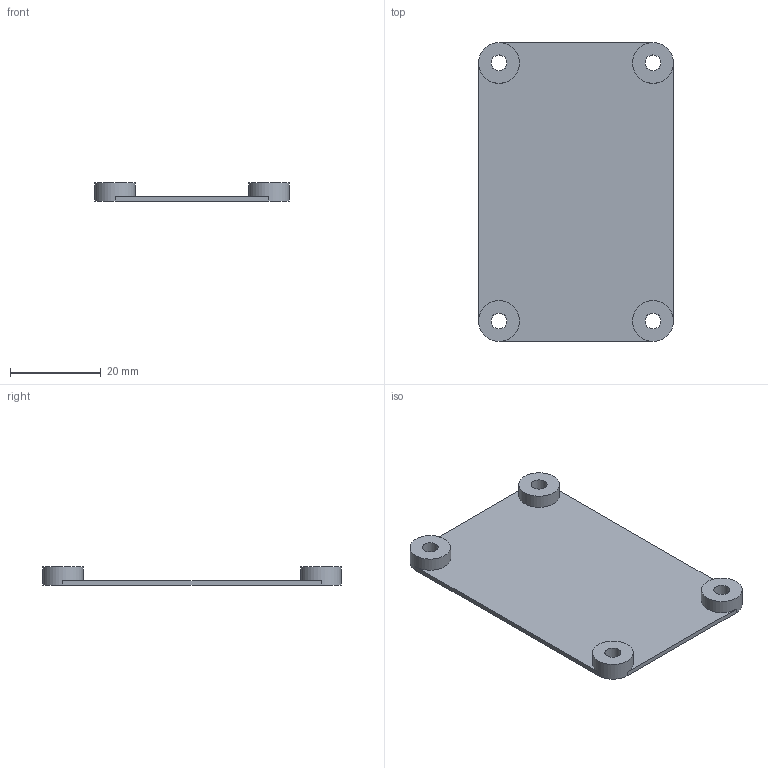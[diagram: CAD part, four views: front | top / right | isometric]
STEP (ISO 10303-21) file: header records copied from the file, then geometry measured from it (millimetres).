
FILE_DESCRIPTION(/* description */ (''),/* implementation_level */ '2;1');
FILE_NAME(/* name */ 'D:\3D печать\Мои проекты\Archy MK 2\STEP\крепление модуля PWC.stp',/* time_stamp */ '2019-03-20T22:12:52+06:00',/* author */ ('Пользователь'),/* organization */ (''),/* preprocessor_version */ 'ST-DEVELOPER v16.5',/* originating_system */ 'Autodesk Inventor 2017',/* authorisation */ '');
FILE_SCHEMA (('AUTOMOTIVE_DESIGN { 1 0 10303 214 3 1 1 }'));
Length unit declared in the file: millimetre
Products named in the file (1): крепление \X2\043C043E
04340443043B044F\X0\ PWC
Bounding box: 43 x 66 x 4 mm (x, y, z)
Volume: 3430.1 mm3; surface area: 6289.8 mm2
Topology: 1 solids, 1 shells, 18 faces, 50 edges, 34 vertices
Faces by surface type: plane 10, cylinder 8
Full cylindrical faces by diameter (mm): 3.5 x4, 9 x4
Entity records: 536 total; most frequent: DIRECTION 94, CARTESIAN_POINT 83, ORIENTED_EDGE 72, AXIS2_PLACEMENT_3D 39, EDGE_CURVE 36, EDGE_LOOP 34, VERTEX_POINT 28, CIRCLE 20
